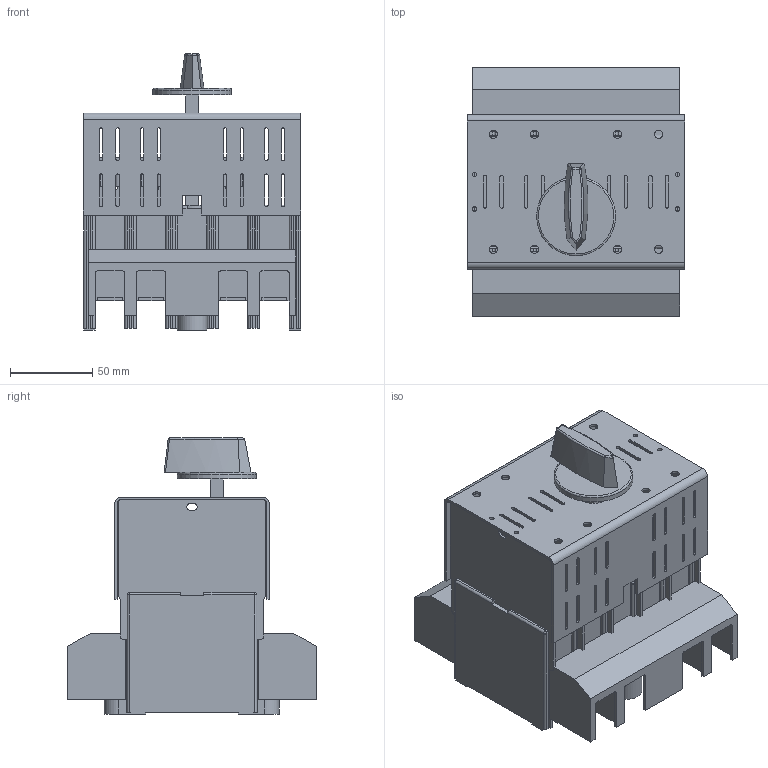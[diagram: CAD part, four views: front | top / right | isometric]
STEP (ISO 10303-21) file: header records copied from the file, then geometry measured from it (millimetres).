
FILE_DESCRIPTION(/* description */ (''),/* implementation_level */ '2;1');
FILE_NAME(/* name */ 'RAB 000 P3 N-R, P4-R z oslona zaciskow.stp',/* time_stamp */ '2021-08-19T09:28:29+02:00',/* author */ (''),/* organization */ (''),/* preprocessor_version */ 'ST-DEVELOPER v18.1',/* originating_system */ 'SIEMENS PLM Software NX 1965',/* authorisation */ '');
FILE_SCHEMA (('AUTOMOTIVE_DESIGN { 1 0 10303 214 3 1 1 1 }'));
Length unit declared in the file: millimetre
Products named in the file (1): RAB 000 P3 N-R, P4-R z oslona zaciskow
Bounding box: 132.5 x 151.03 x 168 mm (x, y, z)
Volume: 792111.1 mm3; surface area: 264366.1 mm2
Topology: 1 solids, 1 shells, 1172 faces, 3398 edges, 2205 vertices
Faces by surface type: plane 765, cylinder 326, extrusion 48, sphere 25, bspline 7, torus 1
Full cylindrical faces by diameter (mm): 2.7 x4, 5 x8, 5.8 x2, 6.5 x8, 10 x2, 11.5 x2, 20 x1, 48 x1
Entity records: 38986 total; most frequent: CARTESIAN_POINT 7954, ORIENTED_EDGE 6654, DIRECTION 6119, EDGE_CURVE 3327, VECTOR 2575, LINE 2527, VERTEX_POINT 2174, AXIS2_PLACEMENT_3D 1772
